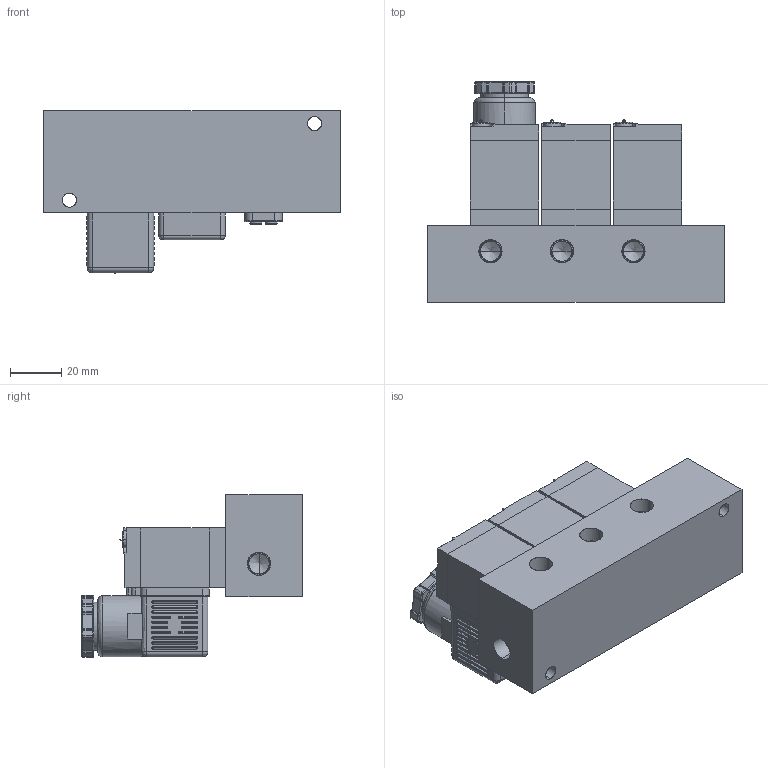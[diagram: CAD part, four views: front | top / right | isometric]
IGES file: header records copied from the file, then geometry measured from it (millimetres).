
Start section: SolidWorks IGES file using analytic representation for surfaces
Global section: file name: C:\Users\Toshiba\Desktop\MF#-TC1-01.IGS; native system: SolidWorks 2014; preprocessor: SolidWorks 2014; author: Toshiba; date: 160801.111018; units: millimetre
Bounding box: 116 x 86.5 x 63.64 mm (x, y, z)
Surface area: 58082.3 mm2 (no closed solid volume)
Topology: 0 solids, 0 shells, 955 faces, 8408 edges, 8255 vertices
Faces by surface type: revolution 521, bspline 434
